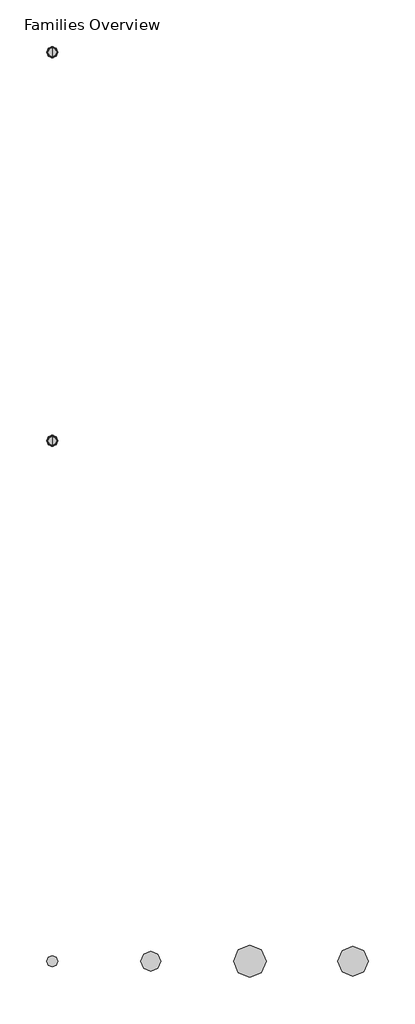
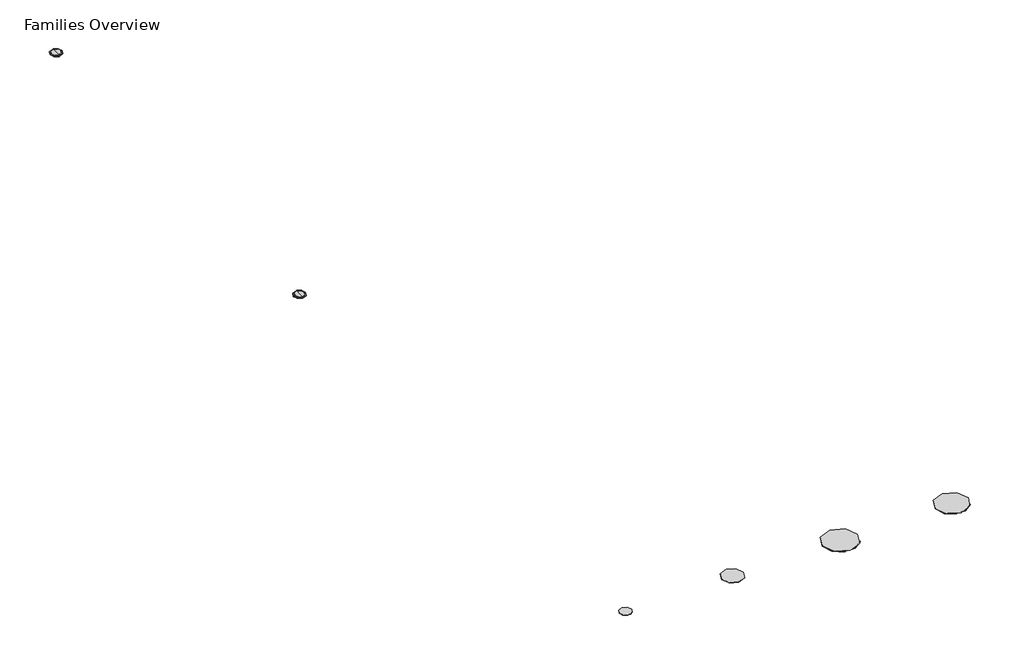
# One storey, incomplete: 6 furniture elements.
"""IFC4 building model written with IfcOpenShell, lengths in millimetres."""

from ifc_helpers import new_model, si_unit, origin, place, context, project, spatial, transform, mapped, element, save
from components import furniture_d5b5b585, furniture_17_3_4dia_a371264b, furniture_47_1_2dia_bd21ff6a, furniture_51dia_19f0d5e0, pouf_d2e2975a

model = new_model("IFC4")

# Units and contexts
model_context = context("Model", 3, world=origin())
ifc_project = project(units=[si_unit("LENGTHUNIT", "METRE", prefix="MILLI")], contexts=[model_context])

# Site, building, storey
site = spatial("IfcSite", under=ifc_project)
building = spatial("IfcBuilding", under=site)
storey = spatial("IfcBuildingStorey", under=building, Name="Families Overview", Elevation=0.0)

# Furniture
placement = place(None, origin())
furniture_shape = furniture_d5b5b585(model_context)
element("IfcFurniture", 1, ObjectType="EMU_Table_Outdoor_Heaven_Pouf_GlassTop : 31 1⁄2Dia", at=placement, inside=storey, context=model_context, shape_type="MappedRepresentation", body=[
    mapped(furniture_shape, transform((146524.5992392, -91590.3322353, 0.0), x_axis=(1.0, 0.0, 0.0), y_axis=(0.0, 1.0, 0.0), z_axis=(0.0, 0.0, 1.0))),
])
furniture_17_3_4dia_shape = furniture_17_3_4dia_a371264b(model_context)
element("IfcFurniture", 2, ObjectType="EMU_Table_Outdoor_Heaven_Pouf_GlassTop : 17 3/4Dia", at=placement, inside=storey, context=model_context, shape_type="MappedRepresentation", body=[
    mapped(furniture_17_3_4dia_shape, transform((142574.7297843, -91590.3322353, 0.0), x_axis=(1.0, 0.0, 0.0), y_axis=(0.0, 1.0, 0.0), z_axis=(0.0, 0.0, 1.0))),
])
furniture_47_1_2dia_shape = furniture_47_1_2dia_bd21ff6a(model_context)
element("IfcFurniture", 3, ObjectType="EMU_Table_Outdoor_Heaven_Pouf_GlassTop : 47 1/2Dia", at=placement, inside=storey, context=model_context, shape_type="MappedRepresentation", body=[
    mapped(furniture_47_1_2dia_shape, transform((150486.9992392, -91590.3322353, 0.0), x_axis=(1.0, 0.0, 0.0), y_axis=(0.0, 1.0, 0.0), z_axis=(0.0, 0.0, 1.0))),
])
furniture_51dia_shape = furniture_51dia_19f0d5e0(model_context)
element("IfcFurniture", 4, ObjectType="EMU_Table_Outdoor_Heaven_Pouf_GlassTop : 51Dia", at=placement, inside=storey, context=model_context, shape_type="MappedRepresentation", body=[
    mapped(furniture_51dia_shape, transform((154607.9797843, -91590.3322353, 0.0), x_axis=(1.0, 0.0, 0.0), y_axis=(0.0, 1.0, 0.0), z_axis=(0.0, 0.0, 1.0))),
])
pouf_shape = pouf_d2e2975a(model_context)
element("IfcFurniture", 5, ObjectType="EMU_Accessory_Cushion_Heaven_Pouf_Indoor : Pouf", at=placement, inside=storey, context=model_context, shape_type="MappedRepresentation", body=[
    mapped(pouf_shape, transform((142799.4621227, -70554.1428683, 0.0), x_axis=(1.0, 0.0, 0.0), y_axis=(0.0, 1.0, 0.0), z_axis=(0.0, 0.0, 1.0))),
])
element("IfcFurniture", 6, ObjectType="EMU_Accessory_Cushion_Heaven_Pouf_Outdoor : Pouf", at=placement, inside=storey, context=model_context, shape_type="MappedRepresentation", body=[
    mapped(pouf_shape, transform((142799.4621227, -55009.3428683, 0.0), x_axis=(1.0, 0.0, 0.0), y_axis=(0.0, 1.0, 0.0), z_axis=(0.0, 0.0, 1.0))),
])

save(model, "model.ifc")
